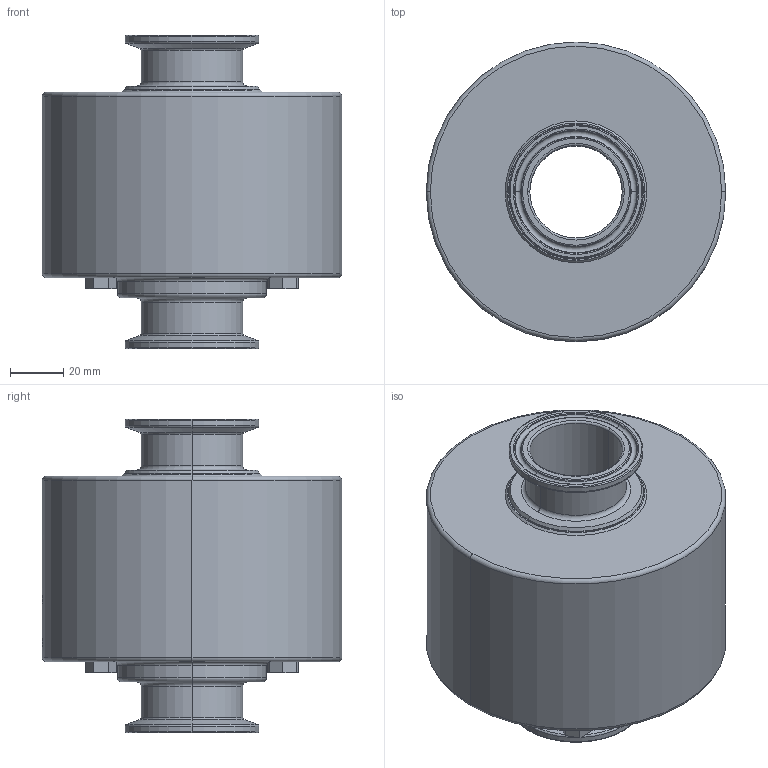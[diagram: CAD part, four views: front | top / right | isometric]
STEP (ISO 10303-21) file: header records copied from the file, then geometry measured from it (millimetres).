
FILE_DESCRIPTION (( 'STEP AP214' ), '1' );
FILE_NAME ('SCS(M)-608010.STEP', '2013-01-28T15:47:45', ( '' ), ( '' ), 'SwSTEP 2.0', 'SolidWorks 2011', '' );
FILE_SCHEMA (( 'AUTOMOTIVE_DESIGN' ));
Length unit declared in the file: inch
Products named in the file (1): SCS(M)-608010
Bounding box: 112.73 x 112.73 x 117.86 mm (x, y, z)
Volume: 654975.6 mm3; surface area: 67600.6 mm2
Topology: 1 solids, 5 shells, 137 faces, 294 edges, 168 vertices
Faces by surface type: plane 41, torus 40, cone 28, cylinder 28
Entity records: 4178 total; most frequent: CARTESIAN_POINT 716, DIRECTION 704, ORIENTED_EDGE 564, AXIS2_PLACEMENT_3D 288, EDGE_CURVE 282, VERTEX_POINT 168, EDGE_LOOP 152, CIRCLE 150
